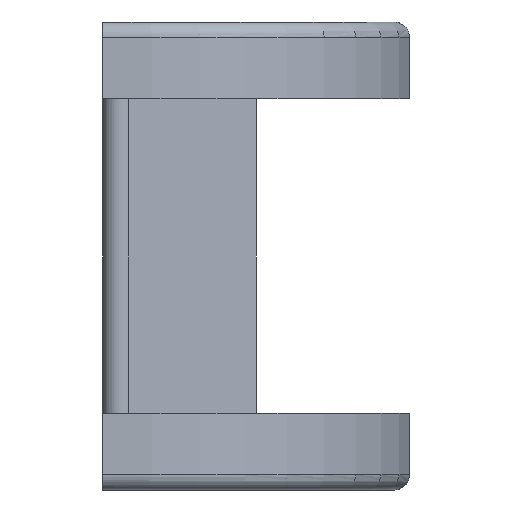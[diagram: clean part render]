
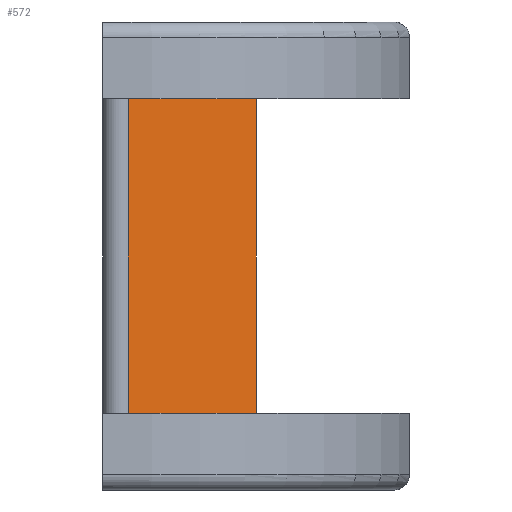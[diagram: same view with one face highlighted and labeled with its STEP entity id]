
A CAD part, front view. The second image highlights one B-rep face of the part: STEP entity #572.
In plain terms, the highlighted planar face has unit normal (0.658, -0.753, 0).
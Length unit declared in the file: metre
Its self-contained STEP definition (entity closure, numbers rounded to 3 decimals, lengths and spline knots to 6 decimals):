
#55=LINE('',#914,#105);
#66=LINE('',#943,#116);
#67=LINE('',#946,#117);
#68=LINE('',#947,#118);
#105=VECTOR('',#727,1.);
#116=VECTOR('',#754,1.);
#117=VECTOR('',#755,1.);
#118=VECTOR('',#756,1.);
#196=ORIENTED_EDGE('',*,*,#339,.F.);
#197=ORIENTED_EDGE('',*,*,#340,.T.);
#198=ORIENTED_EDGE('',*,*,#324,.T.);
#199=ORIENTED_EDGE('',*,*,#341,.F.);
#324=EDGE_CURVE('',#399,#398,#55,.T.);
#339=EDGE_CURVE('',#409,#410,#66,.T.);
#340=EDGE_CURVE('',#409,#399,#67,.T.);
#341=EDGE_CURVE('',#410,#398,#68,.T.);
#398=VERTEX_POINT('',#913);
#399=VERTEX_POINT('',#915);
#409=VERTEX_POINT('',#944);
#410=VERTEX_POINT('',#945);
#467=EDGE_LOOP('',(#196,#197,#198,#199));
#513=FACE_BOUND('',#467,.T.);
#554=PLANE('',#631);
#572=ADVANCED_FACE('',(#513),#554,.F.);
#631=AXIS2_PLACEMENT_3D('',#942,#752,#753);
#727=DIRECTION('',(0.753,0.659,0.));
#752=DIRECTION('',(-0.659,0.753,0.));
#753=DIRECTION('',(-0.753,-0.659,0.));
#754=DIRECTION('',(0.753,0.659,0.));
#755=DIRECTION('',(0.,0.,-1.));
#756=DIRECTION('',(0.,0.,-1.));
#913=CARTESIAN_POINT('',(0.,-0.055563,0.));
#914=CARTESIAN_POINT('',(-0.00635,-0.061119,0.));
#915=CARTESIAN_POINT('',(-0.010594,-0.064832,0.));
#942=CARTESIAN_POINT('',(-0.00635,-0.061119,0.026038));
#943=CARTESIAN_POINT('',(-0.00635,-0.061119,0.026038));
#944=CARTESIAN_POINT('',(-0.010594,-0.064832,0.026038));
#945=CARTESIAN_POINT('',(0.,-0.055563,0.026038));
#946=CARTESIAN_POINT('',(-0.010594,-0.064832,0.026038));
#947=CARTESIAN_POINT('',(0.,-0.055563,0.026038));
